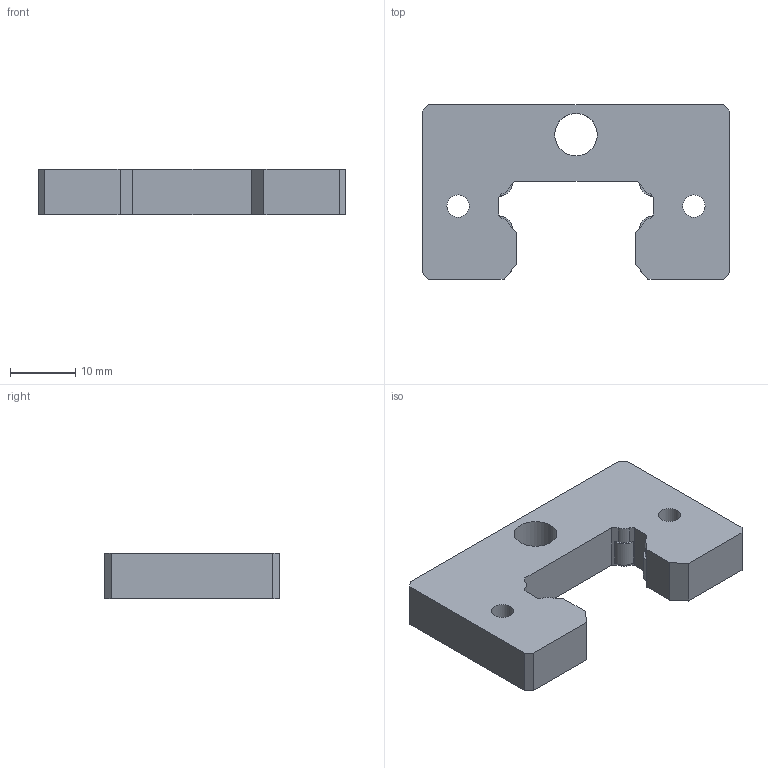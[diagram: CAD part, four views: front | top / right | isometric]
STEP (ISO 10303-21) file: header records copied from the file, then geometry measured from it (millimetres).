
FILE_DESCRIPTION (( 'STEP AP203' ), '1' );
FILE_NAME ('MF 25A (FV,SV,CL,CLL).STEP', '2015-01-09T05:05:22', ( 'john' ), ( '' ), 'SwSTEP 2.0', 'SolidWorks 2013', '' );
FILE_SCHEMA (( 'CONFIG_CONTROL_DESIGN' ));
Length unit declared in the file: millimetre
Products named in the file (1): MF 25A (FV,SV,CL,CLL)
Bounding box: 47 x 26.7 x 7 mm (x, y, z)
Volume: 6285.3 mm3; surface area: 3338.6 mm2
Topology: 1 solids, 1 shells, 49 faces, 141 edges, 94 vertices
Faces by surface type: plane 34, cylinder 15
Full cylindrical faces by diameter (mm): 3.4 x2, 6.5 x1
Entity records: 1679 total; most frequent: CARTESIAN_POINT 282, ORIENTED_EDGE 276, DIRECTION 268, EDGE_CURVE 138, VECTOR 108, LINE 108, VERTEX_POINT 94, AXIS2_PLACEMENT_3D 80
